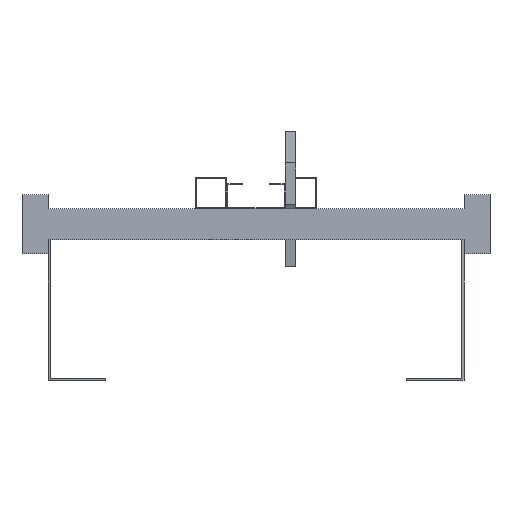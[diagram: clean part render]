
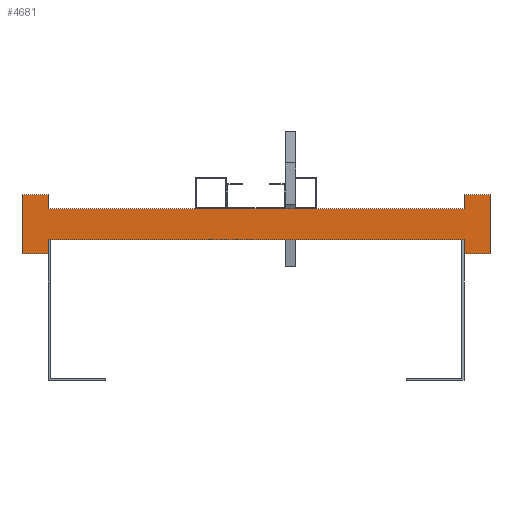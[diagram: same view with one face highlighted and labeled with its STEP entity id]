
A CAD part, front view. The second image highlights one B-rep face of the part: STEP entity #4681.
In plain terms, the highlighted planar face has unit normal (0, -1, 0).
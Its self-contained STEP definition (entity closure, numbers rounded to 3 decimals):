
#1685=DIRECTION('',(0.,0.,1.));
#1686=VECTOR('',#1685,13.5);
#1687=CARTESIAN_POINT('',(200.,0.,-28.5));
#1688=LINE('',#1687,#1686);
#1689=DIRECTION('',(0.,0.,-1.));
#1690=VECTOR('',#1689,13.5);
#1691=CARTESIAN_POINT('',(-200.,0.,-15.));
#1692=LINE('',#1691,#1690);
#1693=DIRECTION('',(-1.,0.,0.));
#1694=VECTOR('',#1693,25.);
#1695=CARTESIAN_POINT('',(-200.,0.,-28.5));
#1696=LINE('',#1695,#1694);
#1697=DIRECTION('',(0.,0.,1.));
#1698=VECTOR('',#1697,57.);
#1699=CARTESIAN_POINT('',(-225.,0.,-28.5));
#1700=LINE('',#1699,#1698);
#1701=DIRECTION('',(1.,0.,0.));
#1702=VECTOR('',#1701,25.);
#1703=CARTESIAN_POINT('',(-225.,0.,28.5));
#1704=LINE('',#1703,#1702);
#1705=DIRECTION('',(0.,0.,-1.));
#1706=VECTOR('',#1705,13.5);
#1707=CARTESIAN_POINT('',(-200.,0.,28.5));
#1708=LINE('',#1707,#1706);
#1709=DIRECTION('',(0.,0.,1.));
#1710=VECTOR('',#1709,13.5);
#1711=CARTESIAN_POINT('',(200.,0.,15.));
#1712=LINE('',#1711,#1710);
#1713=DIRECTION('',(1.,0.,0.));
#1714=VECTOR('',#1713,25.);
#1715=CARTESIAN_POINT('',(200.,0.,28.5));
#1716=LINE('',#1715,#1714);
#1717=DIRECTION('',(0.,0.,-1.));
#1718=VECTOR('',#1717,57.);
#1719=CARTESIAN_POINT('',(225.,0.,28.5));
#1720=LINE('',#1719,#1718);
#1721=DIRECTION('',(-1.,0.,0.));
#1722=VECTOR('',#1721,25.);
#1723=CARTESIAN_POINT('',(225.,0.,-28.5));
#1724=LINE('',#1723,#1722);
#1725=DIRECTION('',(1.,0.,0.));
#1726=VECTOR('',#1725,400.);
#1727=CARTESIAN_POINT('',(-200.,0.,-15.));
#1728=LINE('',#1727,#1726);
#1737=DIRECTION('',(1.,0.,0.));
#1738=VECTOR('',#1737,400.);
#1739=CARTESIAN_POINT('',(-200.,0.,15.));
#1740=LINE('',#1739,#1738);
#1809=CARTESIAN_POINT('',(-225.,0.,28.5));
#1810=CARTESIAN_POINT('',(-200.,0.,28.5));
#1811=VERTEX_POINT('',#1809);
#1812=VERTEX_POINT('',#1810);
#1813=CARTESIAN_POINT('',(-200.,0.,-28.5));
#1814=CARTESIAN_POINT('',(-225.,0.,-28.5));
#1815=VERTEX_POINT('',#1813);
#1816=VERTEX_POINT('',#1814);
#1817=CARTESIAN_POINT('',(225.,0.,28.5));
#1818=CARTESIAN_POINT('',(225.,0.,-28.5));
#1819=VERTEX_POINT('',#1817);
#1820=VERTEX_POINT('',#1818);
#1821=CARTESIAN_POINT('',(200.,0.,-28.5));
#1822=VERTEX_POINT('',#1821);
#1823=CARTESIAN_POINT('',(200.,0.,28.5));
#1824=VERTEX_POINT('',#1823);
#1841=CARTESIAN_POINT('',(-200.,0.,-15.));
#1843=VERTEX_POINT('',#1841);
#1845=CARTESIAN_POINT('',(-200.,0.,15.));
#1847=VERTEX_POINT('',#1845);
#1849=CARTESIAN_POINT('',(200.,0.,-15.));
#1851=VERTEX_POINT('',#1849);
#1853=CARTESIAN_POINT('',(200.,0.,15.));
#1855=VERTEX_POINT('',#1853);
#4656=CARTESIAN_POINT('',(0.,0.,0.));
#4657=DIRECTION('',(0.,1.,0.));
#4658=DIRECTION('',(1.,0.,0.));
#4659=AXIS2_PLACEMENT_3D('',#4656,#4657,#4658);
#4660=PLANE('',#4659);
#4661=ORIENTED_EDGE('',*,*,#2738,.T.);
#4663=ORIENTED_EDGE('',*,*,#4662,.F.);
#4664=ORIENTED_EDGE('',*,*,#2452,.T.);
#4665=ORIENTED_EDGE('',*,*,#3767,.T.);
#4667=ORIENTED_EDGE('',*,*,#4666,.T.);
#4669=ORIENTED_EDGE('',*,*,#4668,.T.);
#4670=ORIENTED_EDGE('',*,*,#2460,.T.);
#4672=ORIENTED_EDGE('',*,*,#4671,.T.);
#4673=ORIENTED_EDGE('',*,*,#2730,.T.);
#4675=ORIENTED_EDGE('',*,*,#4674,.T.);
#4677=ORIENTED_EDGE('',*,*,#4676,.T.);
#4678=ORIENTED_EDGE('',*,*,#4084,.T.);
#4679=EDGE_LOOP('',(#4661,#4663,#4664,#4665,#4667,#4669,#4670,#4672,#4673,#4675,
#4677,#4678));
#4680=FACE_OUTER_BOUND('',#4679,.F.);
#2452=EDGE_CURVE('',#1843,#1815,#1692,.T.);
#2460=EDGE_CURVE('',#1812,#1847,#1708,.T.);
#2730=EDGE_CURVE('',#1855,#1824,#1712,.T.);
#2738=EDGE_CURVE('',#1822,#1851,#1688,.T.);
#3767=EDGE_CURVE('',#1815,#1816,#1696,.T.);
#4084=EDGE_CURVE('',#1820,#1822,#1724,.T.);
#4662=EDGE_CURVE('',#1843,#1851,#1728,.T.);
#4666=EDGE_CURVE('',#1816,#1811,#1700,.T.);
#4668=EDGE_CURVE('',#1811,#1812,#1704,.T.);
#4671=EDGE_CURVE('',#1847,#1855,#1740,.T.);
#4674=EDGE_CURVE('',#1824,#1819,#1716,.T.);
#4676=EDGE_CURVE('',#1819,#1820,#1720,.T.);
#4681=ADVANCED_FACE('',(#4680),#4660,.F.);
